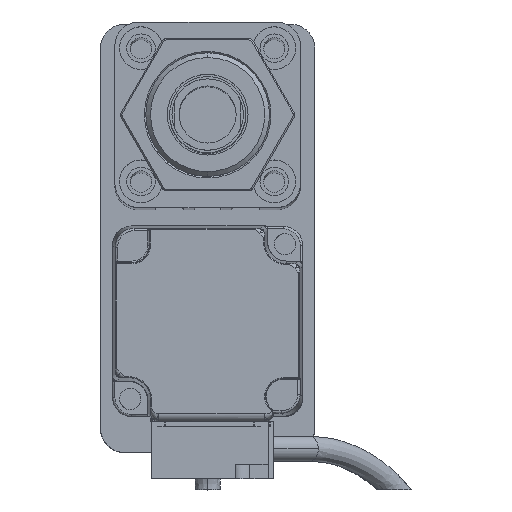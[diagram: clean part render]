
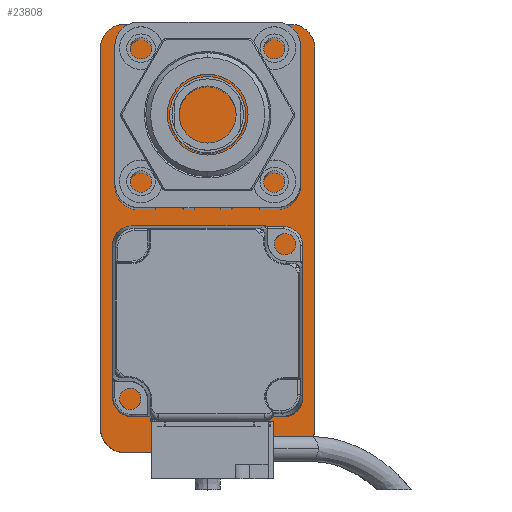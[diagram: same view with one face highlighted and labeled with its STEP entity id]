
A CAD part, top view. The second image highlights one B-rep face of the part: STEP entity #23808.
In plain terms, the highlighted planar face has unit normal (0, 0, 1).
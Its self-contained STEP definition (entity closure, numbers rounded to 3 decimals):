
#398 = CARTESIAN_POINT ( 'NONE',  ( -17.5, -40., 10. ) ) ;
#434 = ORIENTED_EDGE ( 'NONE', *, *, #23801, .T. ) ;
#622 = EDGE_CURVE ( 'NONE', #15707, #8890, #21155, .T. ) ;
#1196 = DIRECTION ( 'NONE',  ( 0., -1., 0. ) ) ;
#2255 = DIRECTION ( 'NONE',  ( 0., 0., 1. ) ) ;
#2339 = ORIENTED_EDGE ( 'NONE', *, *, #2951, .T. ) ;
#2661 = ORIENTED_EDGE ( 'NONE', *, *, #6097, .T. ) ;
#2951 = EDGE_CURVE ( 'NONE', #18759, #26803, #24132, .T. ) ;
#3154 = CIRCLE ( 'NONE', #13239, 5. ) ;
#3219 = AXIS2_PLACEMENT_3D ( 'NONE', #10406, #16849, #16648 ) ;
#3979 = ORIENTED_EDGE ( 'NONE', *, *, #23934, .T. ) ;
#6018 = CARTESIAN_POINT ( 'NONE',  ( 17.5, 40., 10. ) ) ;
#6097 = EDGE_CURVE ( 'NONE', #16887, #6199, #7323, .T. ) ;
#6199 = VERTEX_POINT ( 'NONE', #17070 ) ;
#6979 = CARTESIAN_POINT ( 'NONE',  ( 17.5, 45., 10. ) ) ;
#7323 = LINE ( 'NONE', #22738, #24987 ) ;
#7427 = CARTESIAN_POINT ( 'NONE',  ( 17.5, -40., 10. ) ) ;
#8069 = DIRECTION ( 'NONE',  ( 1., 0., 0. ) ) ;
#8890 = VERTEX_POINT ( 'NONE', #20828 ) ;
#9359 = CARTESIAN_POINT ( 'NONE',  ( -22.5, 40., 10. ) ) ;
#9509 = CARTESIAN_POINT ( 'NONE',  ( -17.5, 45., 10. ) ) ;
#10406 = CARTESIAN_POINT ( 'NONE',  ( 0., 0., 10. ) ) ;
#10984 = EDGE_CURVE ( 'NONE', #14371, #17533, #23351, .T. ) ;
#12305 = CARTESIAN_POINT ( 'NONE',  ( -17.5, -45., 10. ) ) ;
#12668 = ORIENTED_EDGE ( 'NONE', *, *, #22668, .T. ) ;
#13098 = VECTOR ( 'NONE', #1196, 1000. ) ;
#13173 = ORIENTED_EDGE ( 'NONE', *, *, #622, .T. ) ;
#13239 = AXIS2_PLACEMENT_3D ( 'NONE', #6018, #18874, #8069 ) ;
#13274 = CARTESIAN_POINT ( 'NONE',  ( -17.5, 40., 10. ) ) ;
#13621 = DIRECTION ( 'NONE',  ( 0., 1., 0. ) ) ;
#14352 = DIRECTION ( 'NONE',  ( 1., 0., 0. ) ) ;
#14371 = VERTEX_POINT ( 'NONE', #6979 ) ;
#15183 = CIRCLE ( 'NONE', #15599, 5. ) ;
#15441 = DIRECTION ( 'NONE',  ( 1., 0., 0. ) ) ;
#15599 = AXIS2_PLACEMENT_3D ( 'NONE', #13274, #22143, #22052 ) ;
#15707 = VERTEX_POINT ( 'NONE', #27704 ) ;
#16046 = CARTESIAN_POINT ( 'NONE',  ( -22.5, -45., 10. ) ) ;
#16182 = EDGE_LOOP ( 'NONE', ( #13173, #434, #17386, #3979, #2339, #12668, #2661, #17357 ) ) ;
#16648 = DIRECTION ( 'NONE',  ( 1., 0., 0. ) ) ;
#16849 = DIRECTION ( 'NONE',  ( 0., 0., 1. ) ) ;
#16887 = VERTEX_POINT ( 'NONE', #12305 ) ;
#17070 = CARTESIAN_POINT ( 'NONE',  ( 17.5, -45., 10. ) ) ;
#17102 = CARTESIAN_POINT ( 'NONE',  ( 22.5, -45., 10. ) ) ;
#17357 = ORIENTED_EDGE ( 'NONE', *, *, #26173, .T. ) ;
#17386 = ORIENTED_EDGE ( 'NONE', *, *, #10984, .T. ) ;
#17533 = VERTEX_POINT ( 'NONE', #9509 ) ;
#18759 = VERTEX_POINT ( 'NONE', #9359 ) ;
#18874 = DIRECTION ( 'NONE',  ( 0., 0., 1. ) ) ;
#19157 = DIRECTION ( 'NONE',  ( -1., 0., 0. ) ) ;
#19359 = CARTESIAN_POINT ( 'NONE',  ( 22.5, 45., 10. ) ) ;
#20079 = AXIS2_PLACEMENT_3D ( 'NONE', #7427, #22332, #22159 ) ;
#20181 = VECTOR ( 'NONE', #13621, 1000. ) ;
#20565 = AXIS2_PLACEMENT_3D ( 'NONE', #398, #2255, #15441 ) ;
#20730 = CIRCLE ( 'NONE', #20079, 5. ) ;
#20828 = CARTESIAN_POINT ( 'NONE',  ( 22.5, 40., 10. ) ) ;
#21119 = PLANE ( 'NONE',  #3219 ) ;
#21155 = LINE ( 'NONE', #17102, #20181 ) ;
#21701 = VECTOR ( 'NONE', #19157, 1000. ) ;
#22052 = DIRECTION ( 'NONE',  ( 1., 0., 0. ) ) ;
#22143 = DIRECTION ( 'NONE',  ( 0., 0., 1. ) ) ;
#22159 = DIRECTION ( 'NONE',  ( 1., 0., 0. ) ) ;
#22332 = DIRECTION ( 'NONE',  ( 0., 0., 1. ) ) ;
#22504 = FACE_OUTER_BOUND ( 'NONE', #16182, .T. ) ;
#22668 = EDGE_CURVE ( 'NONE', #26803, #16887, #26609, .T. ) ;
#22738 = CARTESIAN_POINT ( 'NONE',  ( 22.5, -45., 10. ) ) ;
#23351 = LINE ( 'NONE', #19359, #21701 ) ;
#23801 = EDGE_CURVE ( 'NONE', #8890, #14371, #3154, .T. ) ;
#23808 = ADVANCED_FACE ( 'NONE', ( #22504 ), #21119, .T. ) ;
#23934 = EDGE_CURVE ( 'NONE', #17533, #18759, #15183, .T. ) ;
#24132 = LINE ( 'NONE', #16046, #13098 ) ;
#24228 = CARTESIAN_POINT ( 'NONE',  ( -22.5, -40., 10. ) ) ;
#24987 = VECTOR ( 'NONE', #14352, 1000. ) ;
#26173 = EDGE_CURVE ( 'NONE', #6199, #15707, #20730, .T. ) ;
#26609 = CIRCLE ( 'NONE', #20565, 5. ) ;
#26803 = VERTEX_POINT ( 'NONE', #24228 ) ;
#27704 = CARTESIAN_POINT ( 'NONE',  ( 22.5, -40., 10. ) ) ;
